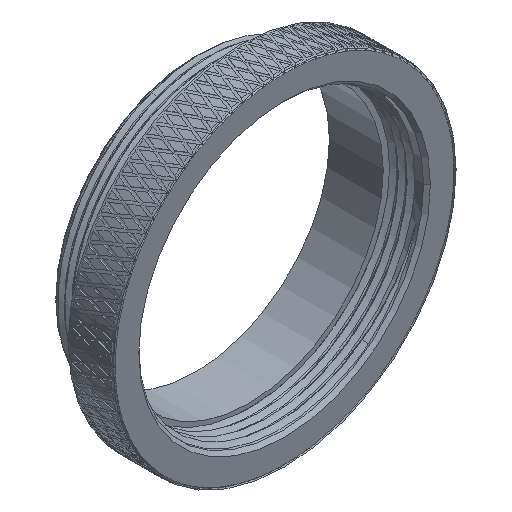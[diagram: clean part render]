
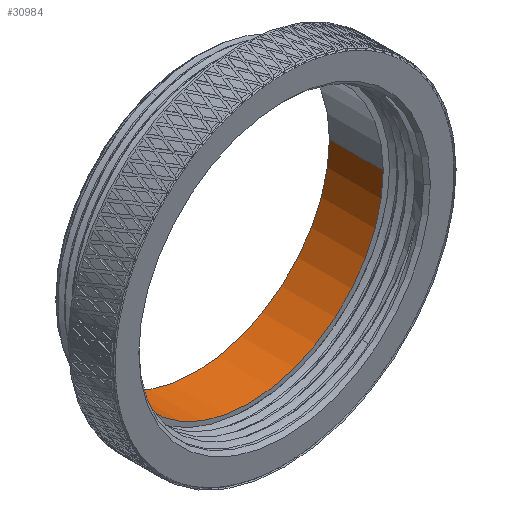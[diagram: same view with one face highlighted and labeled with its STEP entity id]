
A CAD part, isometric view. The second image highlights one B-rep face of the part: STEP entity #30984.
In plain terms, the highlighted cylindrical face has radius 12 mm (diameter 24 mm), a partial arc.
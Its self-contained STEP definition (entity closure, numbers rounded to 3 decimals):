
#1063=CARTESIAN_POINT('',(0.,3.2,0.));
#1064=DIRECTION('',(0.,-1.,0.));
#1065=DIRECTION('',(-1.,0.,0.));
#1066=AXIS2_PLACEMENT_3D('',#1063,#1064,#1065);
#1112=DIRECTION('',(0.,1.,0.));
#1113=VECTOR('',#1112,4.8);
#1114=CARTESIAN_POINT('',(12.,3.2,0.));
#1115=LINE('',#1114,#1113);
#1116=DIRECTION('',(0.,1.,0.));
#1117=VECTOR('',#1116,4.8);
#1118=CARTESIAN_POINT('',(-12.,3.2,0.));
#1119=LINE('',#1118,#1117);
#1125=CARTESIAN_POINT('',(0.,8.,0.));
#1126=DIRECTION('',(0.,-1.,0.));
#1127=DIRECTION('',(-1.,0.,0.));
#1128=AXIS2_PLACEMENT_3D('',#1125,#1126,#1127);
#27530=CARTESIAN_POINT('',(12.,3.2,0.));
#27531=CARTESIAN_POINT('',(-12.,3.2,0.));
#27532=VERTEX_POINT('',#27530);
#27533=VERTEX_POINT('',#27531);
#27534=CARTESIAN_POINT('',(12.,8.,0.));
#27535=CARTESIAN_POINT('',(-12.,8.,0.));
#27536=VERTEX_POINT('',#27534);
#27537=VERTEX_POINT('',#27535);
#30972=CARTESIAN_POINT('',(0.,3.2,0.));
#30973=DIRECTION('',(0.,1.,0.));
#30974=DIRECTION('',(1.,0.,0.));
#30975=AXIS2_PLACEMENT_3D('',#30972,#30973,#30974);
#30976=CYLINDRICAL_SURFACE('',#30975,12.);
#30977=ORIENTED_EDGE('',*,*,#30952,.F.);
#30978=ORIENTED_EDGE('',*,*,#30967,.T.);
#30980=ORIENTED_EDGE('',*,*,#30979,.T.);
#30981=ORIENTED_EDGE('',*,*,#30963,.F.);
#30982=EDGE_LOOP('',(#30977,#30978,#30980,#30981));
#30983=FACE_OUTER_BOUND('',#30982,.F.);
#30984=ADVANCED_FACE('',(#30983),#30976,.F.);
#1067=CIRCLE('',#1066,12.);
#1129=CIRCLE('',#1128,12.);
#30952=EDGE_CURVE('',#27533,#27532,#1067,.T.);
#30963=EDGE_CURVE('',#27532,#27536,#1115,.T.);
#30967=EDGE_CURVE('',#27533,#27537,#1119,.T.);
#30979=EDGE_CURVE('',#27537,#27536,#1129,.T.);
